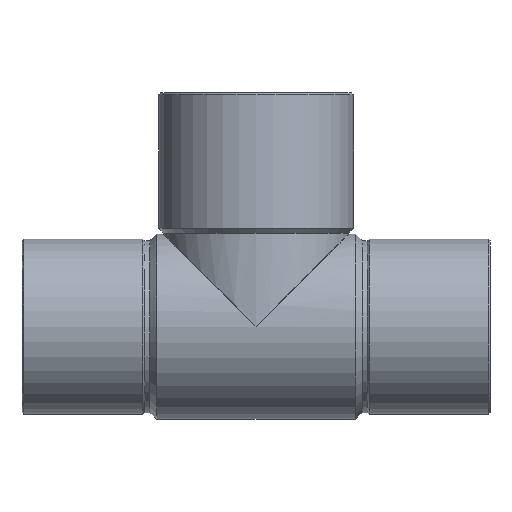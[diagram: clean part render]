
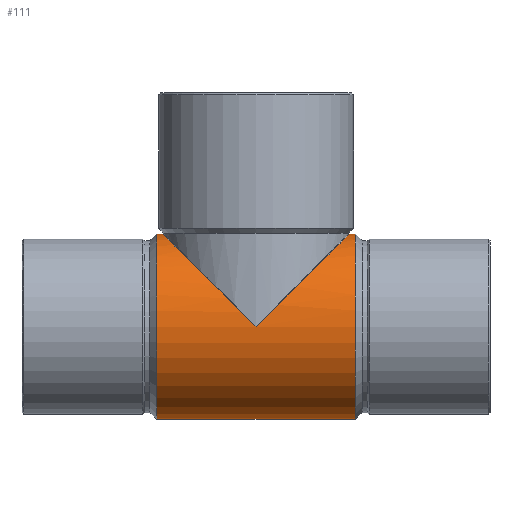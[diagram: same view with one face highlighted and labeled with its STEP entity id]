
A CAD part, top view. The second image highlights one B-rep face of the part: STEP entity #111.
In plain terms, the highlighted cylindrical face has radius 9.5 mm (diameter 19 mm), a partial arc.
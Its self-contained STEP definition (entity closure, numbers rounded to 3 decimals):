
#44=CARTESIAN_POINT('',(0.,0.,0.0));
#45=DIRECTION('',(1.0,0.,0.0));
#46=DIRECTION('',(0.0,1.0,0.0));
#47=AXIS2_PLACEMENT_3D('',#44,#45,#46);
#48=CYLINDRICAL_SURFACE('',#47,9.5);
#49=CARTESIAN_POINT('',(-10.19,9.5,0.0));
#50=VERTEX_POINT('',#49);
#51=CARTESIAN_POINT('',(-9.55,9.5,0.));
#52=VERTEX_POINT('',#51);
#53=CARTESIAN_POINT('',(-10.19,9.5,0.0));
#54=DIRECTION('',(1.0,0.0,0.0));
#55=VECTOR('',#54,0.64);
#56=LINE('',#53,#55);
#57=EDGE_CURVE('',#50,#52,#56,.T.);
#58=ORIENTED_EDGE('',*,*,#57,.F.);
#59=CARTESIAN_POINT('',(-10.19,-9.5,0.));
#60=VERTEX_POINT('',#59);
#61=CARTESIAN_POINT('',(-10.19,0.,0.0));
#62=DIRECTION('',(1.0,0.0,0.0));
#63=DIRECTION('',(0.0,1.0,0.0));
#64=AXIS2_PLACEMENT_3D('',#61,#62,#63);
#65=CIRCLE('',#64,9.5);
#66=EDGE_CURVE('',#50,#60,#65,.T.);
#67=ORIENTED_EDGE('',*,*,#66,.T.);
#68=CARTESIAN_POINT('',(10.19,-9.5,0.));
#69=VERTEX_POINT('',#68);
#70=CARTESIAN_POINT('',(10.19,-9.5,0.));
#71=DIRECTION('',(-1.0,0.0,0.0));
#72=VECTOR('',#71,20.38);
#73=LINE('',#70,#72);
#74=EDGE_CURVE('',#69,#60,#73,.T.);
#75=ORIENTED_EDGE('',*,*,#74,.F.);
#76=CARTESIAN_POINT('',(10.19,9.5,0.0));
#77=VERTEX_POINT('',#76);
#78=CARTESIAN_POINT('',(10.19,0.,0.0));
#79=DIRECTION('',(-1.0,0.0,0.0));
#80=DIRECTION('',(0.0,1.0,0.0));
#81=AXIS2_PLACEMENT_3D('',#78,#79,#80);
#82=CIRCLE('',#81,9.5);
#83=EDGE_CURVE('',#69,#77,#82,.T.);
#84=ORIENTED_EDGE('',*,*,#83,.T.);
#85=CARTESIAN_POINT('',(9.55,9.5,0.));
#86=VERTEX_POINT('',#85);
#87=CARTESIAN_POINT('',(9.55,9.5,0.));
#88=DIRECTION('',(1.0,0.0,0.0));
#89=VECTOR('',#88,0.64);
#90=LINE('',#87,#89);
#91=EDGE_CURVE('',#86,#77,#90,.T.);
#92=ORIENTED_EDGE('',*,*,#91,.F.);
#93=CARTESIAN_POINT('',(0.,0.,9.5));
#94=VERTEX_POINT('',#93);
#95=CARTESIAN_POINT('',(0.,0.,0.0));
#96=DIRECTION('',(-0.705,0.709,0.));
#97=DIRECTION('',(0.709,0.705,0.0));
#98=AXIS2_PLACEMENT_3D('',#95,#96,#97);
#99=ELLIPSE('',#98,13.47,9.5);
#100=EDGE_CURVE('',#94,#86,#99,.T.);
#101=ORIENTED_EDGE('',*,*,#100,.F.);
#102=CARTESIAN_POINT('',(0.,0.,0.0));
#103=DIRECTION('',(0.705,0.709,0.));
#104=DIRECTION('',(-0.709,0.705,0.0));
#105=AXIS2_PLACEMENT_3D('',#102,#103,#104);
#106=ELLIPSE('',#105,13.47,9.5);
#107=EDGE_CURVE('',#52,#94,#106,.T.);
#108=ORIENTED_EDGE('',*,*,#107,.F.);
#109=EDGE_LOOP('',(#58,#67,#75,#84,#92,#101,#108));
#110=FACE_OUTER_BOUND('',#109,.T.);
#111=ADVANCED_FACE('',(#110),#48,.T.);
